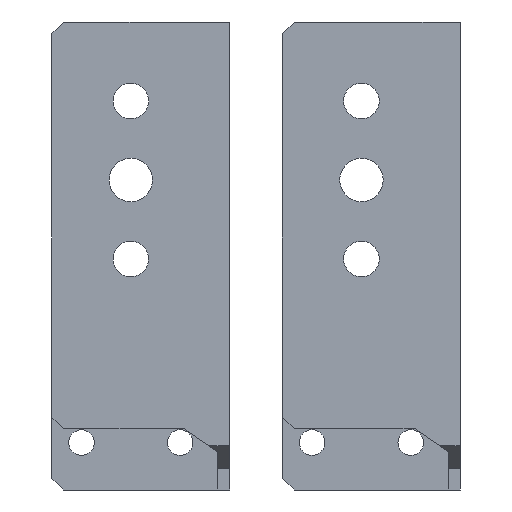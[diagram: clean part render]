
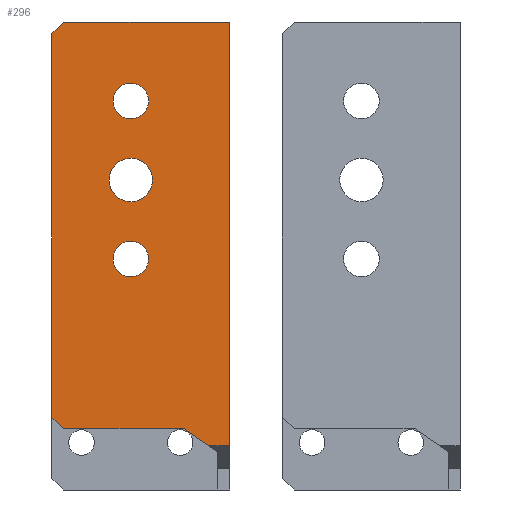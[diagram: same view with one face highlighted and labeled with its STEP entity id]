
A CAD part, left-side view. The second image highlights one B-rep face of the part: STEP entity #296.
In plain terms, the highlighted planar face has unit normal (-1, 0, 0).
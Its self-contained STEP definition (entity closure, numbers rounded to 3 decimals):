
#4 = FACE_BOUND ( 'NONE', #436, .T. ) ;
#12 = DIRECTION ( 'NONE',  ( 0., -1., 0. ) ) ;
#21 = CARTESIAN_POINT ( 'NONE',  ( -44., 0.775, -0.775 ) ) ;
#26 = EDGE_CURVE ( 'NONE', #564, #150, #118, .T. ) ;
#28 = DIRECTION ( 'NONE',  ( 0., -0.707, -0.707 ) ) ;
#30 = DIRECTION ( 'NONE',  ( 0., -1., 0. ) ) ;
#49 = VECTOR ( 'NONE', #149, 1000. ) ;
#55 = CARTESIAN_POINT ( 'NONE',  ( -44., -22.348, 118.5 ) ) ;
#64 = LINE ( 'NONE', #671, #165 ) ;
#75 = EDGE_CURVE ( 'NONE', #459, #1031, #703, .T. ) ;
#83 = LINE ( 'NONE', #943, #755 ) ;
#94 = ORIENTED_EDGE ( 'NONE', *, *, #1091, .F. ) ;
#96 = AXIS2_PLACEMENT_3D ( 'NONE', #836, #735, #306 ) ;
#100 = VERTEX_POINT ( 'NONE', #458 ) ;
#116 = VERTEX_POINT ( 'NONE', #301 ) ;
#118 = LINE ( 'NONE', #1048, #330 ) ;
#133 = DIRECTION ( 'NONE',  ( 0., 1., 0. ) ) ;
#139 = DIRECTION ( 'NONE',  ( 0., -1., 0. ) ) ;
#140 = LINE ( 'NONE', #55, #275 ) ;
#149 = DIRECTION ( 'NONE',  ( 0., 0., -1. ) ) ;
#150 = VERTEX_POINT ( 'NONE', #326 ) ;
#153 = EDGE_CURVE ( 'NONE', #214, #100, #140, .T. ) ;
#160 = VERTEX_POINT ( 'NONE', #1003 ) ;
#165 = VECTOR ( 'NONE', #486, 1000. ) ;
#170 = DIRECTION ( 'NONE',  ( -1., 0., 0. ) ) ;
#178 = PLANE ( 'NONE',  #520 ) ;
#184 = EDGE_CURVE ( 'NONE', #100, #237, #582, .T. ) ;
#188 = EDGE_CURVE ( 'NONE', #1035, #818, #460, .T. ) ;
#190 = VERTEX_POINT ( 'NONE', #1088 ) ;
#193 = DIRECTION ( 'NONE',  ( -1., 0., 0. ) ) ;
#204 = EDGE_CURVE ( 'NONE', #818, #1035, #1090, .T. ) ;
#214 = VERTEX_POINT ( 'NONE', #1072 ) ;
#215 = ORIENTED_EDGE ( 'NONE', *, *, #26, .T. ) ;
#228 = DIRECTION ( 'NONE',  ( -1., 0., 0. ) ) ;
#236 = DIRECTION ( 'NONE',  ( -1., 0., 0. ) ) ;
#237 = VERTEX_POINT ( 'NONE', #307 ) ;
#238 = EDGE_CURVE ( 'NONE', #564, #160, #64, .T. ) ;
#250 = CARTESIAN_POINT ( 'NONE',  ( -44., 0., 54. ) ) ;
#275 = VECTOR ( 'NONE', #133, 1000. ) ;
#296 = ADVANCED_FACE ( 'NONE', ( #322, #659, #4, #499 ), #178, .T. ) ;
#301 = CARTESIAN_POINT ( 'NONE',  ( -44., 20., 18.45 ) ) ;
#302 = EDGE_CURVE ( 'NONE', #237, #116, #340, .T. ) ;
#306 = DIRECTION ( 'NONE',  ( 0., -1., 0. ) ) ;
#307 = CARTESIAN_POINT ( 'NONE',  ( -44., 20., 115.5 ) ) ;
#309 = CARTESIAN_POINT ( 'NONE',  ( -44., 0., 94. ) ) ;
#310 = VECTOR ( 'NONE', #28, 1000. ) ;
#322 = FACE_BOUND ( 'NONE', #617, .T. ) ;
#326 = CARTESIAN_POINT ( 'NONE',  ( -44., -19.697, 11.226 ) ) ;
#330 = VECTOR ( 'NONE', #1046, 1000. ) ;
#338 = EDGE_CURVE ( 'NONE', #214, #190, #83, .T. ) ;
#340 = LINE ( 'NONE', #506, #49 ) ;
#360 = CARTESIAN_POINT ( 'NONE',  ( -44., 0., 103. ) ) ;
#409 = CARTESIAN_POINT ( 'NONE',  ( -44., 67.75, 67.75 ) ) ;
#419 = AXIS2_PLACEMENT_3D ( 'NONE', #747, #236, #900 ) ;
#431 = CIRCLE ( 'NONE', #538, 5.5 ) ;
#434 = CARTESIAN_POINT ( 'NONE',  ( -44., 0., 0. ) ) ;
#436 = EDGE_LOOP ( 'NONE', ( #625, #687 ) ) ;
#450 = DIRECTION ( 'NONE',  ( -1., 0., 0. ) ) ;
#453 = CARTESIAN_POINT ( 'NONE',  ( -44., 0., 63. ) ) ;
#458 = CARTESIAN_POINT ( 'NONE',  ( -44., 17., 118.5 ) ) ;
#459 = VERTEX_POINT ( 'NONE', #250 ) ;
#460 = CIRCLE ( 'NONE', #419, 4.5 ) ;
#486 = DIRECTION ( 'NONE',  ( 0., 1., 0. ) ) ;
#496 = DIRECTION ( 'NONE',  ( 0., 1., 0. ) ) ;
#499 = FACE_OUTER_BOUND ( 'NONE', #799, .T. ) ;
#506 = CARTESIAN_POINT ( 'NONE',  ( -44., 20., 118.5 ) ) ;
#520 = AXIS2_PLACEMENT_3D ( 'NONE', #434, #170, #12 ) ;
#538 = AXIS2_PLACEMENT_3D ( 'NONE', #976, #193, #30 ) ;
#539 = ORIENTED_EDGE ( 'NONE', *, *, #204, .F. ) ;
#553 = ORIENTED_EDGE ( 'NONE', *, *, #338, .F. ) ;
#560 = DIRECTION ( 'NONE',  ( -1., 0., 0. ) ) ;
#564 = VERTEX_POINT ( 'NONE', #633 ) ;
#568 = EDGE_CURVE ( 'NONE', #116, #160, #612, .T. ) ;
#582 = LINE ( 'NONE', #409, #952 ) ;
#588 = DIRECTION ( 'NONE',  ( 0., 0., -1. ) ) ;
#612 = LINE ( 'NONE', #21, #310 ) ;
#617 = EDGE_LOOP ( 'NONE', ( #1004, #718 ) ) ;
#622 = DIRECTION ( 'NONE',  ( 0., -1., 0. ) ) ;
#625 = ORIENTED_EDGE ( 'NONE', *, *, #899, .F. ) ;
#633 = CARTESIAN_POINT ( 'NONE',  ( -44., -13.575, 15.45 ) ) ;
#649 = VECTOR ( 'NONE', #496, 1000. ) ;
#655 = VERTEX_POINT ( 'NONE', #1063 ) ;
#659 = FACE_BOUND ( 'NONE', #959, .T. ) ;
#666 = CARTESIAN_POINT ( 'NONE',  ( -44., 0., 11.226 ) ) ;
#671 = CARTESIAN_POINT ( 'NONE',  ( -44., -12.5, 15.45 ) ) ;
#676 = ORIENTED_EDGE ( 'NONE', *, *, #184, .T. ) ;
#687 = ORIENTED_EDGE ( 'NONE', *, *, #801, .F. ) ;
#703 = CIRCLE ( 'NONE', #717, 4.5 ) ;
#717 = AXIS2_PLACEMENT_3D ( 'NONE', #1061, #450, #622 ) ;
#718 = ORIENTED_EDGE ( 'NONE', *, *, #897, .F. ) ;
#729 = CARTESIAN_POINT ( 'NONE',  ( -44., 0., 84. ) ) ;
#732 = CIRCLE ( 'NONE', #96, 4.5 ) ;
#735 = DIRECTION ( 'NONE',  ( -1., 0., 0. ) ) ;
#747 = CARTESIAN_POINT ( 'NONE',  ( -44., 0., 98.5 ) ) ;
#750 = VERTEX_POINT ( 'NONE', #729 ) ;
#755 = VECTOR ( 'NONE', #588, 1000. ) ;
#797 = ORIENTED_EDGE ( 'NONE', *, *, #568, .T. ) ;
#799 = EDGE_LOOP ( 'NONE', ( #1062, #797, #1086, #215, #94, #553, #871, #676 ) ) ;
#801 = EDGE_CURVE ( 'NONE', #750, #655, #431, .T. ) ;
#818 = VERTEX_POINT ( 'NONE', #360 ) ;
#831 = DIRECTION ( 'NONE',  ( 0., 0.707, -0.707 ) ) ;
#836 = CARTESIAN_POINT ( 'NONE',  ( -44., 0., 58.5 ) ) ;
#866 = ORIENTED_EDGE ( 'NONE', *, *, #188, .F. ) ;
#869 = CIRCLE ( 'NONE', #956, 5.5 ) ;
#871 = ORIENTED_EDGE ( 'NONE', *, *, #153, .T. ) ;
#897 = EDGE_CURVE ( 'NONE', #1031, #459, #732, .T. ) ;
#899 = EDGE_CURVE ( 'NONE', #655, #750, #869, .T. ) ;
#900 = DIRECTION ( 'NONE',  ( 0., -1., 0. ) ) ;
#907 = CARTESIAN_POINT ( 'NONE',  ( -44., 0., 78.5 ) ) ;
#908 = CARTESIAN_POINT ( 'NONE',  ( -44., 0., 98.5 ) ) ;
#923 = DIRECTION ( 'NONE',  ( 0., -1., 0. ) ) ;
#930 = LINE ( 'NONE', #666, #649 ) ;
#943 = CARTESIAN_POINT ( 'NONE',  ( -44., -25., 0. ) ) ;
#952 = VECTOR ( 'NONE', #831, 1000. ) ;
#956 = AXIS2_PLACEMENT_3D ( 'NONE', #907, #228, #139 ) ;
#958 = AXIS2_PLACEMENT_3D ( 'NONE', #908, #560, #923 ) ;
#959 = EDGE_LOOP ( 'NONE', ( #866, #539 ) ) ;
#976 = CARTESIAN_POINT ( 'NONE',  ( -44., 0., 78.5 ) ) ;
#1003 = CARTESIAN_POINT ( 'NONE',  ( -44., 17., 15.45 ) ) ;
#1004 = ORIENTED_EDGE ( 'NONE', *, *, #75, .F. ) ;
#1031 = VERTEX_POINT ( 'NONE', #453 ) ;
#1035 = VERTEX_POINT ( 'NONE', #309 ) ;
#1046 = DIRECTION ( 'NONE',  ( 0., -0.823, -0.568 ) ) ;
#1048 = CARTESIAN_POINT ( 'NONE',  ( -44., -14.459, 14.84 ) ) ;
#1061 = CARTESIAN_POINT ( 'NONE',  ( -44., 0., 58.5 ) ) ;
#1062 = ORIENTED_EDGE ( 'NONE', *, *, #302, .T. ) ;
#1063 = CARTESIAN_POINT ( 'NONE',  ( -44., 0., 73. ) ) ;
#1072 = CARTESIAN_POINT ( 'NONE',  ( -44., -25., 118.5 ) ) ;
#1086 = ORIENTED_EDGE ( 'NONE', *, *, #238, .F. ) ;
#1088 = CARTESIAN_POINT ( 'NONE',  ( -44., -25., 11.226 ) ) ;
#1090 = CIRCLE ( 'NONE', #958, 4.5 ) ;
#1091 = EDGE_CURVE ( 'NONE', #190, #150, #930, .T. ) ;
